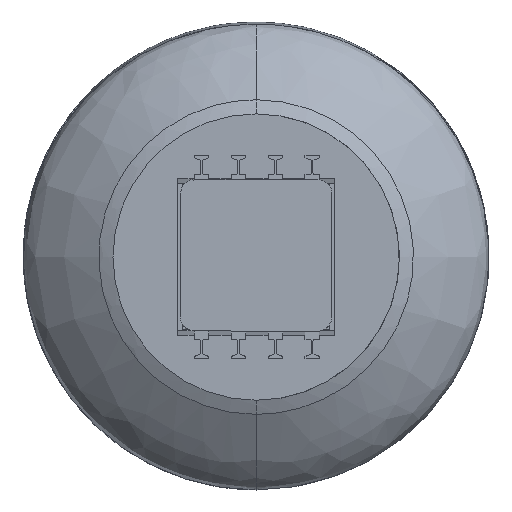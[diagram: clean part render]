
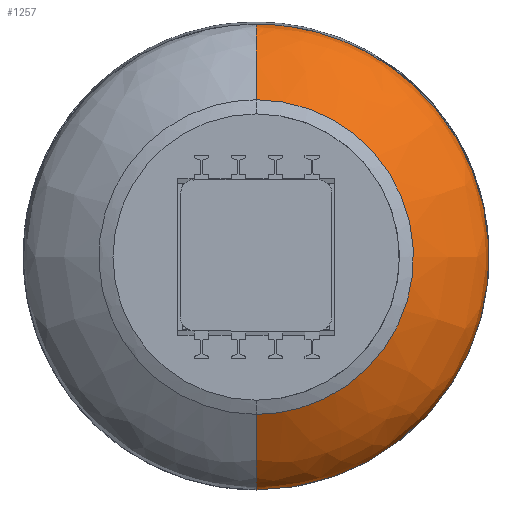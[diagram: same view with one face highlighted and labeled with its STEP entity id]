
A CAD part, left-side view. The second image highlights one B-rep face of the part: STEP entity #1257.
In plain terms, the highlighted free-form (B-spline) face has degree [3, 3] with [4, 4] control points.
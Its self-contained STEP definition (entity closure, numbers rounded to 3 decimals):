
#46=(
BOUNDED_CURVE()
B_SPLINE_CURVE(3,(#21866,#21867,#21868,#21869),.UNSPECIFIED.,.F.,.F.)
B_SPLINE_CURVE_WITH_KNOTS((4,4),(0.,1.),.UNSPECIFIED.)
CURVE()
GEOMETRIC_REPRESENTATION_ITEM()
RATIONAL_B_SPLINE_CURVE((1.,0.333,0.333,1.))
REPRESENTATION_ITEM('')
);
#265=(
BOUNDED_SURFACE()
B_SPLINE_SURFACE(3,3,((#22635,#22636,#22637,#22638),(#22639,#22640,#22641,
#22642),(#22643,#22644,#22645,#22646),(#22647,#22648,#22649,#22650)),
 .UNSPECIFIED.,.F.,.F.,.F.)
B_SPLINE_SURFACE_WITH_KNOTS((4,4),(4,4),(0.,1.),(0.,1.),.UNSPECIFIED.)
GEOMETRIC_REPRESENTATION_ITEM()
RATIONAL_B_SPLINE_SURFACE(((1.,0.333,0.333,1.),
(1.,0.333,0.333,1.),(1.,0.333,0.333,
1.),(1.,0.333,0.333,1.)))
REPRESENTATION_ITEM('')
SURFACE()
);
#431=FACE_OUTER_BOUND('',#2816,.T.);
#1257=ADVANCED_FACE('',(#431),#265,.F.);
#2618=CIRCLE('',#16483,108.225);
#2816=EDGE_LOOP('',(#6695,#6696,#6697,#6698));
#6695=ORIENTED_EDGE('',*,*,#13295,.T.);
#6696=ORIENTED_EDGE('',*,*,#13293,.T.);
#6697=ORIENTED_EDGE('',*,*,#13294,.T.);
#6698=ORIENTED_EDGE('',*,*,#13297,.F.);
#11648=VERTEX_POINT('',#20897);
#11649=VERTEX_POINT('',#20909);
#11659=VERTEX_POINT('',#22611);
#11660=VERTEX_POINT('',#22616);
#13293=EDGE_CURVE('',#11649,#11648,#46,.T.);
#13294=EDGE_CURVE('',#11648,#11659,#15662,.T.);
#13295=EDGE_CURVE('',#11660,#11649,#15663,.T.);
#13297=EDGE_CURVE('',#11660,#11659,#2618,.T.);
#15662=B_SPLINE_CURVE_WITH_KNOTS('',3,(#22607,#22608,#22609,#22610),
 .UNSPECIFIED.,.F.,.F.,(4,4),(0.,1.),.UNSPECIFIED.);
#15663=B_SPLINE_CURVE_WITH_KNOTS('',3,(#22612,#22613,#22614,#22615),
 .UNSPECIFIED.,.F.,.F.,(4,4),(0.,1.),.UNSPECIFIED.);
#16483=AXIS2_PLACEMENT_3D('',#22634,#17399,#17400);
#17399=DIRECTION('',(-1.,0.,0.));
#17400=DIRECTION('',(0.,-1.,0.001));
#20897=CARTESIAN_POINT('',(-52.577,-0.003,159.772));
#20909=CARTESIAN_POINT('',(-52.726,-0.002,-162.228));
#21866=CARTESIAN_POINT('',(-52.726,-0.002,-162.228));
#21867=CARTESIAN_POINT('',(-52.771,-322.002,-162.229));
#21868=CARTESIAN_POINT('',(-52.622,-322.003,159.771));
#21869=CARTESIAN_POINT('',(-52.577,-0.003,159.772));
#22607=CARTESIAN_POINT('',(-52.577,-0.003,159.772));
#22608=CARTESIAN_POINT('',(-68.945,-0.001,159.779));
#22609=CARTESIAN_POINT('',(-86.048,0.002,131.387));
#22610=CARTESIAN_POINT('',(-100.726,0.004,107.019));
#22611=CARTESIAN_POINT('',(-100.726,0.004,107.019));
#22612=CARTESIAN_POINT('',(-100.827,0.005,-109.431));
#22613=CARTESIAN_POINT('',(-86.171,0.003,-133.812));
#22614=CARTESIAN_POINT('',(-69.094,0.,-162.221));
#22615=CARTESIAN_POINT('',(-52.726,-0.002,-162.228));
#22616=CARTESIAN_POINT('',(-100.827,0.005,-109.431));
#22634=CARTESIAN_POINT('',(-100.777,0.004,-1.206));
#22635=CARTESIAN_POINT('',(-52.726,-0.002,-162.228));
#22636=CARTESIAN_POINT('',(-52.771,-322.002,-162.229));
#22637=CARTESIAN_POINT('',(-52.622,-322.003,159.771));
#22638=CARTESIAN_POINT('',(-52.577,-0.003,159.772));
#22639=CARTESIAN_POINT('',(-69.094,0.,-162.221));
#22640=CARTESIAN_POINT('',(-69.139,-322.,-162.222));
#22641=CARTESIAN_POINT('',(-68.99,-322.001,159.778));
#22642=CARTESIAN_POINT('',(-68.945,-0.001,159.779));
#22643=CARTESIAN_POINT('',(-86.171,0.003,-133.812));
#22644=CARTESIAN_POINT('',(-86.208,-265.197,-133.813));
#22645=CARTESIAN_POINT('',(-86.085,-265.198,131.386));
#22646=CARTESIAN_POINT('',(-86.048,0.002,131.387));
#22647=CARTESIAN_POINT('',(-100.827,0.005,-109.431));
#22648=CARTESIAN_POINT('',(-100.857,-216.446,-109.432));
#22649=CARTESIAN_POINT('',(-100.757,-216.446,107.018));
#22650=CARTESIAN_POINT('',(-100.726,0.004,107.019));
